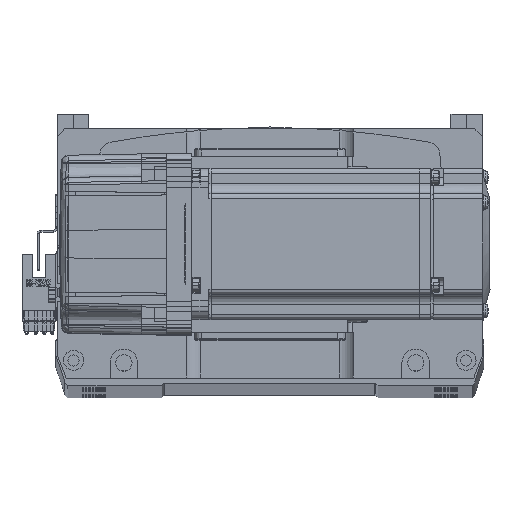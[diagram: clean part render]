
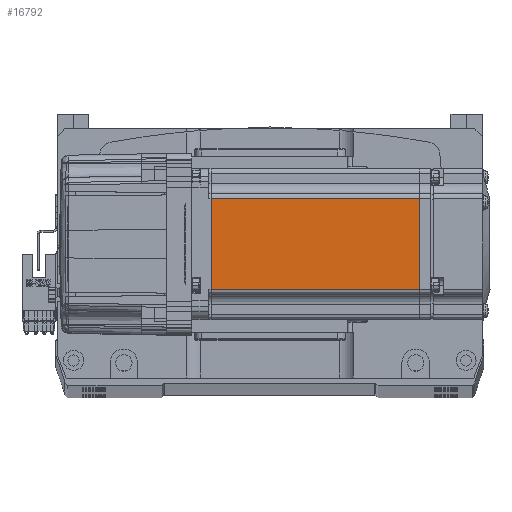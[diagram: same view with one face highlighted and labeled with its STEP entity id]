
A CAD part, top view. The second image highlights one B-rep face of the part: STEP entity #16792.
In plain terms, the highlighted planar face has unit normal (0, 0, 1) as drawn and (0, -1, 0) by its records, which use the part's own axes.
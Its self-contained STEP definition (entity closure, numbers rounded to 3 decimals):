
#1644 = DIRECTION ( 'NONE',  ( -1., 0., 0. ) ) ;
#3666 = CARTESIAN_POINT ( 'NONE',  ( -90.45, -30., -25. ) ) ;
#4383 = DIRECTION ( 'NONE',  ( 0., 0., -1. ) ) ;
#6177 = ORIENTED_EDGE ( 'NONE', *, *, #27681, .T. ) ;
#8424 = EDGE_CURVE ( 'NONE', #49869, #50709, #30113, .T. ) ;
#9770 = DIRECTION ( 'NONE',  ( 0., 0., 1. ) ) ;
#9949 = FACE_OUTER_BOUND ( 'NONE', #29522, .T. ) ;
#10303 = VECTOR ( 'NONE', #60731, 1000. ) ;
#12138 = VECTOR ( 'NONE', #4383, 1000. ) ;
#14892 = ORIENTED_EDGE ( 'NONE', *, *, #35696, .T. ) ;
#15753 = EDGE_CURVE ( 'NONE', #38199, #49869, #21228, .T. ) ;
#16675 = CARTESIAN_POINT ( 'NONE',  ( -6.5, -30., -25. ) ) ;
#16792 = ADVANCED_FACE ( 'NONE', ( #9949 ), #27037, .T. ) ;
#18804 = LINE ( 'NONE', #3666, #12138 ) ;
#19818 = ORIENTED_EDGE ( 'NONE', *, *, #8424, .T. ) ;
#21228 = LINE ( 'NONE', #50302, #10303 ) ;
#25449 = LINE ( 'NONE', #45342, #44090 ) ;
#25967 = CARTESIAN_POINT ( 'NONE',  ( -7.75, -30., -25. ) ) ;
#27037 = PLANE ( 'NONE',  #55758 ) ;
#27681 = EDGE_CURVE ( 'NONE', #59260, #38199, #18804, .T. ) ;
#29522 = EDGE_LOOP ( 'NONE', ( #19818, #14892, #6177, #42914 ) ) ;
#30113 = LINE ( 'NONE', #25967, #34314 ) ;
#33268 = CARTESIAN_POINT ( 'NONE',  ( -7.75, -30., -18. ) ) ;
#34314 = VECTOR ( 'NONE', #9770, 1000. ) ;
#35696 = EDGE_CURVE ( 'NONE', #50709, #59260, #25449, .T. ) ;
#37727 = DIRECTION ( 'NONE',  ( 0., -1., 0. ) ) ;
#38199 = VERTEX_POINT ( 'NONE', #61352 ) ;
#42914 = ORIENTED_EDGE ( 'NONE', *, *, #15753, .T. ) ;
#44090 = VECTOR ( 'NONE', #1644, 1000. ) ;
#45342 = CARTESIAN_POINT ( 'NONE',  ( -6.5, -30., 18. ) ) ;
#47644 = CARTESIAN_POINT ( 'NONE',  ( -7.75, -30., 18. ) ) ;
#49869 = VERTEX_POINT ( 'NONE', #33268 ) ;
#50302 = CARTESIAN_POINT ( 'NONE',  ( -6.5, -30., -18. ) ) ;
#50709 = VERTEX_POINT ( 'NONE', #47644 ) ;
#55758 = AXIS2_PLACEMENT_3D ( 'NONE', #16675, #37727, #69974 ) ;
#59260 = VERTEX_POINT ( 'NONE', #61316 ) ;
#60731 = DIRECTION ( 'NONE',  ( 1., 0., 0. ) ) ;
#61316 = CARTESIAN_POINT ( 'NONE',  ( -90.45, -30., 18. ) ) ;
#61352 = CARTESIAN_POINT ( 'NONE',  ( -90.45, -30., -18. ) ) ;
#69974 = DIRECTION ( 'NONE',  ( 0., 0., -1. ) ) ;
